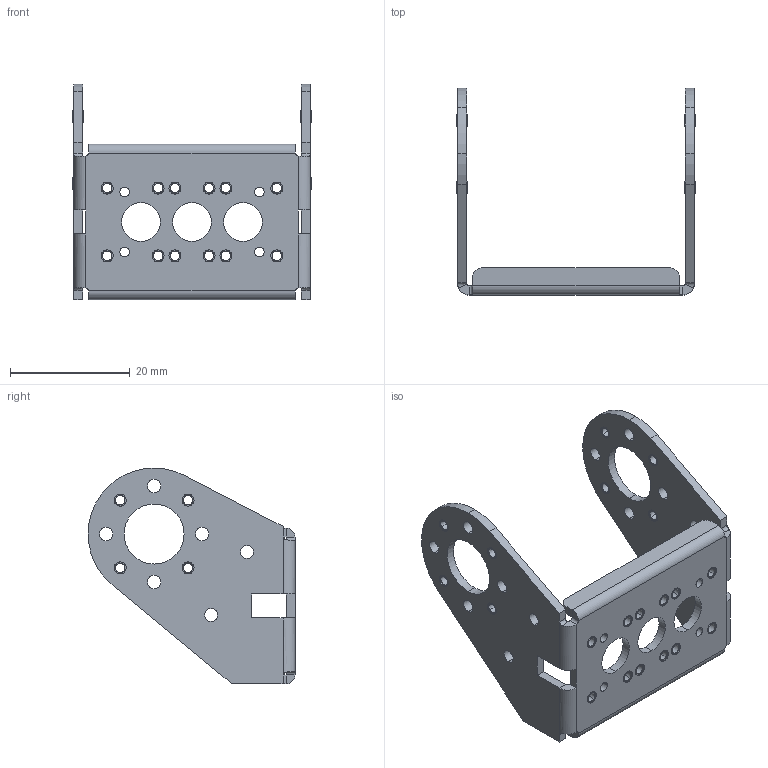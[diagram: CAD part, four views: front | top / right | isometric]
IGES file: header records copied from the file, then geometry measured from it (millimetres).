
Start section:  PTC IGES file: of-h.igs
Global section: file name: of-h.igs; native system: Pro/ENGINEER by Parametric Technology Corporation; preprocessor: 2005310; author: bono; organization: Unknown; date: 060501.143944; units: millimetre
Bounding box: 39.78 x 34.64 x 36 mm (x, y, z)
Surface area: 6119.2 mm2 (no closed solid volume)
Topology: 0 solids, 0 shells, 246 faces, 1912 edges, 2272 vertices
Faces by surface type: revolution 188, bspline 58
